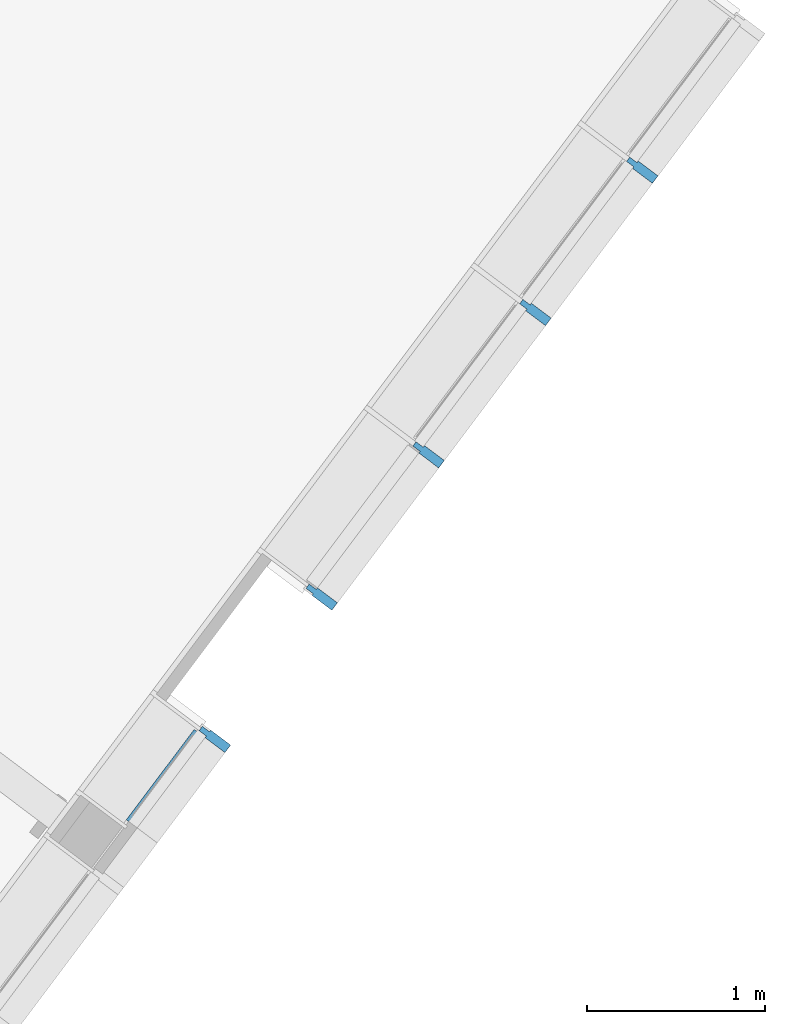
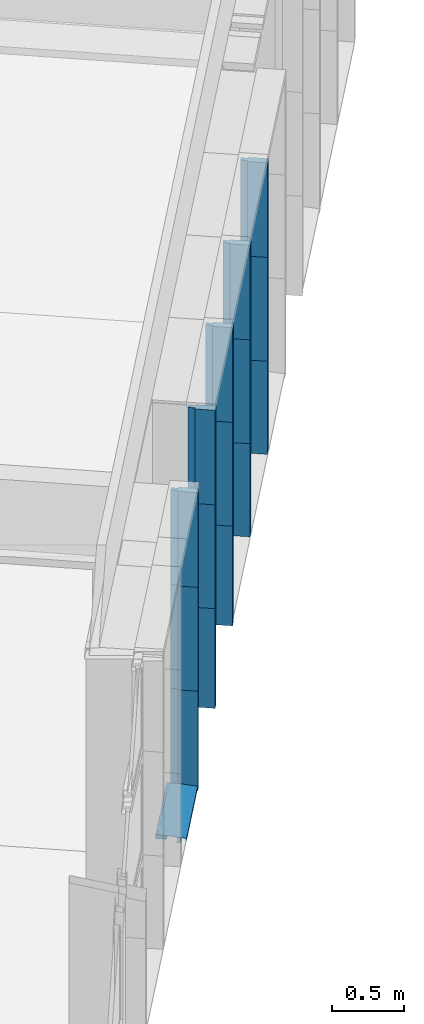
# One storey, part 78 of 243: 16 members, 1 element without a shape of its own.
"""IFC2X3 building model written with IfcOpenShell, lengths in metres."""

from ifc_helpers import new_model, entity, si_unit, converted_unit, derived_unit, direction, frame, frame_2d, origin, place, context, subcontext, project, spatial, polyline, circle_curve, parameter, trimmed, segment, composite_curve, outline, extrude, source, transform, mapped, material, type_object, type_shapes, element, aggregate, save


model = new_model("IFC2X3")

# Units and contexts
model_context = context("Model", 3, precision=1e-05, world=origin(), true_north=direction((6.123031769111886e-17, 1.0)))
body_context = subcontext(model_context, "Body", "Model", "MODEL_VIEW")
ifc_project = project(units=[si_unit("LENGTHUNIT", "METRE"), si_unit("AREAUNIT", "SQUARE_METRE"), si_unit("VOLUMEUNIT", "CUBIC_METRE"), converted_unit("PLANEANGLEUNIT", "DEGREE", entity("IfcRatioMeasure", 0.017453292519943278), si_unit("PLANEANGLEUNIT", "RADIAN"), dimensions=[0, 0, 0, 0, 0, 0, 0]), si_unit("MASSUNIT", "GRAM", prefix="KILO"), derived_unit("MASSDENSITYUNIT", [(si_unit("MASSUNIT", "GRAM", prefix="KILO"), 1), (si_unit("LENGTHUNIT", "METRE"), -3)]), derived_unit("IONCONCENTRATIONUNIT", [(si_unit("MASSUNIT", "GRAM", prefix="KILO"), 1), (si_unit("LENGTHUNIT", "METRE"), -3)]), derived_unit("MOMENTOFINERTIAUNIT", [(si_unit("LENGTHUNIT", "METRE"), 4)]), si_unit("TIMEUNIT", "SECOND"), si_unit("FREQUENCYUNIT", "HERTZ"), si_unit("THERMODYNAMICTEMPERATUREUNIT", "DEGREE_CELSIUS"), derived_unit("THERMALTRANSMITTANCEUNIT", [(si_unit("MASSUNIT", "GRAM", prefix="KILO"), 1), (si_unit("THERMODYNAMICTEMPERATUREUNIT", "KELVIN"), -1), (si_unit("TIMEUNIT", "SECOND"), -3)]), derived_unit("THERMALCONDUCTANCEUNIT", [(si_unit("MASSUNIT", "GRAM", prefix="KILO"), 1), (si_unit("THERMODYNAMICTEMPERATUREUNIT", "KELVIN"), -1), (si_unit("TIMEUNIT", "SECOND"), -3), (si_unit("LENGTHUNIT", "METRE"), 1)]), derived_unit("VOLUMETRICFLOWRATEUNIT", [(si_unit("LENGTHUNIT", "METRE"), 3), (si_unit("TIMEUNIT", "SECOND"), -1)]), derived_unit("MASSFLOWRATEUNIT", [(si_unit("MASSUNIT", "GRAM", prefix="KILO"), 1), (si_unit("TIMEUNIT", "SECOND"), -1)]), derived_unit("ROTATIONALFREQUENCYUNIT", [(si_unit("TIMEUNIT", "SECOND"), -1)]), si_unit("ELECTRICCURRENTUNIT", "AMPERE"), si_unit("ELECTRICVOLTAGEUNIT", "VOLT"), si_unit("POWERUNIT", "WATT"), si_unit("FORCEUNIT", "NEWTON", prefix="KILO"), si_unit("ILLUMINANCEUNIT", "LUX"), si_unit("LUMINOUSFLUXUNIT", "LUMEN"), si_unit("LUMINOUSINTENSITYUNIT", "CANDELA"), derived_unit("USERDEFINED", [(si_unit("MASSUNIT", "GRAM", prefix="KILO"), -1), (si_unit("LENGTHUNIT", "METRE"), -2), (si_unit("TIMEUNIT", "SECOND"), 3), (si_unit("LUMINOUSFLUXUNIT", "LUMEN"), 1)]), derived_unit("USERDEFINED", [(si_unit("MASSUNIT", "GRAM", prefix="KILO"), 1), (si_unit("TIMEUNIT", "SECOND"), -3), (si_unit("LENGTHUNIT", "METRE"), 3), (si_unit("ELECTRICCURRENTUNIT", "AMPERE"), -2)]), derived_unit("SOUNDPOWERUNIT", [(si_unit("MASSUNIT", "GRAM", prefix="KILO"), 1), (si_unit("TIMEUNIT", "SECOND"), -3), (si_unit("LENGTHUNIT", "METRE"), 2)]), derived_unit("SOUNDPRESSUREUNIT", [(si_unit("MASSUNIT", "GRAM", prefix="KILO"), 1), (si_unit("LENGTHUNIT", "METRE"), -1), (si_unit("TIMEUNIT", "SECOND"), -2)]), derived_unit("LINEARVELOCITYUNIT", [(si_unit("LENGTHUNIT", "METRE"), 1), (si_unit("TIMEUNIT", "SECOND"), -1)]), si_unit("PRESSUREUNIT", "PASCAL"), derived_unit("USERDEFINED", [(si_unit("MASSUNIT", "GRAM", prefix="KILO"), 1), (si_unit("LENGTHUNIT", "METRE"), -2), (si_unit("TIMEUNIT", "SECOND"), -2)]), derived_unit("LINEARFORCEUNIT", [(si_unit("MASSUNIT", "GRAM", prefix="KILO"), 1), (si_unit("TIMEUNIT", "SECOND"), -2)]), derived_unit("PLANARFORCEUNIT", [(si_unit("MASSUNIT", "GRAM", prefix="KILO"), 1), (si_unit("LENGTHUNIT", "METRE"), -1), (si_unit("TIMEUNIT", "SECOND"), -2)]), derived_unit("SPECIFICHEATCAPACITYUNIT", [(si_unit("THERMODYNAMICTEMPERATUREUNIT", "KELVIN"), -1), (si_unit("LENGTHUNIT", "METRE"), 2), (si_unit("TIMEUNIT", "SECOND"), -2)]), derived_unit("HEATINGVALUEUNIT", [(si_unit("LENGTHUNIT", "METRE"), 2), (si_unit("TIMEUNIT", "SECOND"), -2)]), derived_unit("VAPORPERMEABILITYUNIT", [(si_unit("LENGTHUNIT", "METRE"), -1), (si_unit("TIMEUNIT", "SECOND"), 1)]), derived_unit("DYNAMICVISCOSITYUNIT", [(si_unit("MASSUNIT", "GRAM", prefix="KILO"), 1), (si_unit("TIMEUNIT", "SECOND"), -1), (si_unit("LENGTHUNIT", "METRE"), -1)]), derived_unit("THERMALEXPANSIONCOEFFICIENTUNIT", [(si_unit("THERMODYNAMICTEMPERATUREUNIT", "KELVIN"), -1)]), derived_unit("MODULUSOFELASTICITYUNIT", [(si_unit("MASSUNIT", "GRAM", prefix="KILO"), 1), (si_unit("LENGTHUNIT", "METRE"), -1), (si_unit("TIMEUNIT", "SECOND"), -2)]), derived_unit("ISOTHERMALMOISTURECAPACITYUNIT", [(si_unit("LENGTHUNIT", "METRE"), 3), (si_unit("MASSUNIT", "GRAM", prefix="KILO"), -1)]), derived_unit("MOISTUREDIFFUSIVITYUNIT", [(si_unit("TIMEUNIT", "SECOND"), -1), (si_unit("LENGTHUNIT", "METRE"), 2)])], contexts=[model_context])

# Site, building, storey
site_placement = place(None, frame((0.0, 0.0, 235.0), z_axis=(0.0, 0.0, 1.0), x_axis=(-0.7996477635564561, 0.6004693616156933, 0.0)))
site = spatial("IfcSite", under=ifc_project, at=site_placement, Name="Default", CompositionType="ELEMENT")
building_placement = place(site_placement, origin())
building = spatial("IfcBuilding", under=site, at=building_placement, CompositionType="ELEMENT")
storey_placement = place(building_placement, origin())
storey = spatial("IfcBuildingStorey", under=building, at=storey_placement, Name="P0- Escola", CompositionType="ELEMENT", Elevation=0.0)

# Curtain wall, members
curtain_wall_type = type_object("IfcCurtainWallType", Name="Muro cortina:MC- EXT- MC2", PredefinedType="NOTDEFINED")
curtain_wall_placement = place(storey_placement, origin())
curtain_wall = element("IfcCurtainWall", 1, at=curtain_wall_placement, inside=storey, type_object=curtain_wall_type, Name="Muro cortina:MC- EXT- MC2", ObjectType="Muro cortina:MC- EXT- MC2")
ifc_material = material(Name="_Alumini- T1- Perfil")
member_type_1 = type_object("IfcMemberType", Name="Montante rectangular:MC- Alu- 140x52,5 cm- Fa patis- Centre", PredefinedType="MULLION", material=ifc_material)
shared_shape_1 = source(origin(), body_context, "Body", "SweptSolid", [
    extrude(outline(polyline([(-0.11699999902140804, -0.026250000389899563), (0.021999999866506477, -0.026250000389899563), (0.021999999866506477, -0.01500000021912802), (0.07299999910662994, -0.01500000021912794), (0.07299999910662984, 0.015000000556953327), (0.02200000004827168, 0.015000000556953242), (0.02200000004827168, 0.026250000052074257), (-0.11699999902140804, 0.026250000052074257), (-0.11699999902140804, -0.026250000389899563)])), frame((0.0, 0.022999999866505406, -0.8400000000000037), z_axis=(0.0, 0.0, 1.0), x_axis=(0.0, -1.0, 0.0)), (0.0, 0.0, 1.0), 0.8400000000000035),
])
type_shapes(member_type_1, [shared_shape_1])
member_1_placement = place(curtain_wall_placement, frame((41.045147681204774, -24.415191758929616, -0.02), z_axis=(0.0, 0.0, -1.0), x_axis=(0.0, -1.0, 0.0)))
member_1 = element("IfcMember", 2, at=member_1_placement, type_object=member_type_1, material=ifc_material, Name="Montante rectangular:MC- Alu- 140x52,5 cm- Fa patis- Centre", ObjectType="Montante rectangular:MC- Alu- 140x52,5 cm- Fa patis- Centre", context=body_context, shape_type="MappedRepresentation", body=[
    mapped(shared_shape_1, transform((0.0, 0.0, 0.0), scale=1.0)),
])
member_2_placement = place(curtain_wall_placement, frame((41.045147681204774, -26.41519175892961, -0.02), z_axis=(0.0, 0.0, -1.0), x_axis=(0.0, -1.0, 0.0)))
member_2 = element("IfcMember", 3, at=member_2_placement, type_object=member_type_1, material=ifc_material, Name="Montante rectangular:MC- Alu- 140x52,5 cm- Fa patis- Centre", ObjectType="Montante rectangular:MC- Alu- 140x52,5 cm- Fa patis- Centre", context=body_context, shape_type="MappedRepresentation", body=[
    mapped(shared_shape_1, transform((0.0, 0.0, 0.0), scale=1.0)),
])
member_3_placement = place(curtain_wall_placement, frame((41.045147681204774, -25.415191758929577, -0.02), z_axis=(0.0, 0.0, -1.0), x_axis=(0.0, -1.0, 0.0)))
member_3 = element("IfcMember", 4, at=member_3_placement, type_object=member_type_1, material=ifc_material, Name="Montante rectangular:MC- Alu- 140x52,5 cm- Fa patis- Centre", ObjectType="Montante rectangular:MC- Alu- 140x52,5 cm- Fa patis- Centre", context=body_context, shape_type="MappedRepresentation", body=[
    mapped(shared_shape_1, transform((0.0, 0.0, 0.0), scale=1.0)),
])
member_type_2 = type_object("IfcMemberType", Name="Montante rectangular:MC- Alu- 140x52,5 cm- Fa patis- Centre", PredefinedType="MULLION", material=ifc_material)
shared_shape_2 = source(origin(), body_context, "Body", "SweptSolid", [
    extrude(outline(polyline([(-0.11699999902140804, -0.026250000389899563), (0.021999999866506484, -0.026250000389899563), (0.021999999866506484, -0.01500000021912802), (0.07299999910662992, -0.01500000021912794), (0.07299999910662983, 0.015000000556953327), (0.022000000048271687, 0.015000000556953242), (0.022000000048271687, 0.026250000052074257), (-0.11699999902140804, 0.026250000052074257), (-0.11699999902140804, -0.026250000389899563)])), frame((0.0, 0.022999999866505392, -0.7850000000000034), z_axis=(0.0, 0.0, 1.0), x_axis=(0.0, -1.0, 0.0)), (0.0, 0.0, 1.0), 0.7850000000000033),
])
type_shapes(member_type_2, [shared_shape_2])
member_4_placement = place(curtain_wall_placement, frame((41.045147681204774, -27.41519175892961, 0.035000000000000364), z_axis=(0.0, 0.0, -1.0), x_axis=(0.0, -1.0, 0.0)))
member_4 = element("IfcMember", 5, at=member_4_placement, type_object=member_type_2, material=ifc_material, Name="Montante rectangular:MC- Alu- 140x52,5 cm- Fa patis- Centre", ObjectType="Montante rectangular:MC- Alu- 140x52,5 cm- Fa patis- Centre", context=body_context, shape_type="MappedRepresentation", body=[
    mapped(shared_shape_2, transform((0.0, 0.0, 0.0), scale=1.0)),
])
member_5_placement = place(curtain_wall_placement, frame((41.04514768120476, -28.415191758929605, 0.035000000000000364), z_axis=(0.0, 0.0, -1.0), x_axis=(0.0, -1.0, 0.0)))
member_5 = element("IfcMember", 6, at=member_5_placement, type_object=member_type_2, material=ifc_material, Name="Montante rectangular:MC- Alu- 140x52,5 cm- Fa patis- Centre", ObjectType="Montante rectangular:MC- Alu- 140x52,5 cm- Fa patis- Centre", context=body_context, shape_type="MappedRepresentation", body=[
    mapped(shared_shape_2, transform((0.0, 0.0, 0.0), scale=1.0)),
])
member_type_3 = type_object("IfcMemberType", Name="Montante rectangular:MC- Alu- 140x52,5 cm- Fa patis- Centre", PredefinedType="MULLION", material=ifc_material)
shared_shape_3 = source(origin(), body_context, "Body", "SweptSolid", [
    extrude(outline(polyline([(-0.11699999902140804, -0.026250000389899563), (0.021999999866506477, -0.026250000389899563), (0.021999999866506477, -0.01500000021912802), (0.07299999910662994, -0.01500000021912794), (0.07299999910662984, 0.015000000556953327), (0.02200000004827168, 0.015000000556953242), (0.02200000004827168, 0.026250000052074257), (-0.11699999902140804, 0.026250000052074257), (-0.11699999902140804, -0.026250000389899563)])), frame((0.0, 0.022999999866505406, -0.8750000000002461), z_axis=(0.0, 0.0, 1.0), x_axis=(0.0, -1.0, 0.0)), (0.0, 0.0, 1.0), 0.8750000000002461),
])
type_shapes(member_type_3, [shared_shape_3])
member_6_placement = place(curtain_wall_placement, frame((41.045147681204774, -24.415191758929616, 0.8200000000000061), z_axis=(0.0, 0.0, -1.0), x_axis=(0.0, -1.0, 0.0)))
member_6 = element("IfcMember", 7, at=member_6_placement, type_object=member_type_3, material=ifc_material, Name="Montante rectangular:MC- Alu- 140x52,5 cm- Fa patis- Centre", ObjectType="Montante rectangular:MC- Alu- 140x52,5 cm- Fa patis- Centre", context=body_context, shape_type="MappedRepresentation", body=[
    mapped(shared_shape_3, transform((0.0, 0.0, 0.0), scale=1.0)),
])
member_7_placement = place(curtain_wall_placement, frame((41.045147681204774, -25.415191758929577, 0.8200000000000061), z_axis=(0.0, 0.0, -1.0), x_axis=(0.0, -1.0, 0.0)))
member_7 = element("IfcMember", 8, at=member_7_placement, type_object=member_type_3, material=ifc_material, Name="Montante rectangular:MC- Alu- 140x52,5 cm- Fa patis- Centre", ObjectType="Montante rectangular:MC- Alu- 140x52,5 cm- Fa patis- Centre", context=body_context, shape_type="MappedRepresentation", body=[
    mapped(shared_shape_3, transform((0.0, 0.0, 0.0), scale=1.0)),
])
member_8_placement = place(curtain_wall_placement, frame((41.045147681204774, -26.41519175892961, 0.8200000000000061), z_axis=(0.0, 0.0, -1.0), x_axis=(0.0, -1.0, 0.0)))
member_8 = element("IfcMember", 9, at=member_8_placement, type_object=member_type_3, material=ifc_material, Name="Montante rectangular:MC- Alu- 140x52,5 cm- Fa patis- Centre", ObjectType="Montante rectangular:MC- Alu- 140x52,5 cm- Fa patis- Centre", context=body_context, shape_type="MappedRepresentation", body=[
    mapped(shared_shape_3, transform((0.0, 0.0, 0.0), scale=1.0)),
])
member_9_placement = place(curtain_wall_placement, frame((41.045147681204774, -27.41519175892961, 0.8200000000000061), z_axis=(0.0, 0.0, -1.0), x_axis=(0.0, -1.0, 0.0)))
member_9 = element("IfcMember", 10, at=member_9_placement, type_object=member_type_3, material=ifc_material, Name="Montante rectangular:MC- Alu- 140x52,5 cm- Fa patis- Centre", ObjectType="Montante rectangular:MC- Alu- 140x52,5 cm- Fa patis- Centre", context=body_context, shape_type="MappedRepresentation", body=[
    mapped(shared_shape_3, transform((0.0, 0.0, 0.0), scale=1.0)),
])
member_10_placement = place(curtain_wall_placement, frame((41.04514768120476, -28.415191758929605, 0.8200000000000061), z_axis=(0.0, 0.0, -1.0), x_axis=(0.0, -1.0, 0.0)))
member_10 = element("IfcMember", 11, at=member_10_placement, type_object=member_type_3, material=ifc_material, Name="Montante rectangular:MC- Alu- 140x52,5 cm- Fa patis- Centre", ObjectType="Montante rectangular:MC- Alu- 140x52,5 cm- Fa patis- Centre", context=body_context, shape_type="MappedRepresentation", body=[
    mapped(shared_shape_3, transform((0.0, 0.0, 0.0), scale=1.0)),
])
member_type_4 = type_object("IfcMemberType", Name="Montante rectangular:MC- Alu- 140x52,5 cm- Fa patis- inferior", PredefinedType="MULLION", material=ifc_material)
shared_shape_4 = source(origin(), body_context, "Body", "SweptSolid", [
    extrude(outline(composite_curve([segment(polyline([(0.1278672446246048, -0.02586710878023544), (0.14416724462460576, -0.025867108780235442)]), True, "CONTINUOUS"), segment(polyline([(0.14416724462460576, -0.025867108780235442), (0.1441672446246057, 0.00913289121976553)]), True, "CONTINUOUS"), segment(polyline([(0.1441672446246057, 0.00913289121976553), (0.06786724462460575, 0.009132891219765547)]), True, "CONTINUOUS"), segment(polyline([(0.06786724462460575, 0.009132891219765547), (0.06786724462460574, -0.021159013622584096)]), True, "CONTINUOUS"), segment(polyline([(0.06786724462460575, -0.02115901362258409), (-0.030132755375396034, -0.012332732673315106)]), True, "CONTINUOUS"), segment(polyline([(-0.03013275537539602, -0.012332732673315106), (-0.030132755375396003, 0.027132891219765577)]), True, "CONTINUOUS"), segment(polyline([(-0.030132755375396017, 0.027132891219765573), (-0.0021327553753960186, 0.027132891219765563)]), True, "CONTINUOUS"), segment(polyline([(-0.0021327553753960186, 0.027132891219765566), (-0.0021327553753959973, 0.029132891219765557)]), True, "CONTINUOUS"), segment(polyline([(-0.0021327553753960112, 0.029132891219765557), (-0.032132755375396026, 0.029132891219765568)]), True, "CONTINUOUS"), segment(polyline([(-0.032132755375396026, 0.029132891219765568), (-0.03213275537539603, -0.01215260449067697)]), True, "CONTINUOUS"), segment(polyline([(-0.03213275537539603, -0.01215260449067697), (-0.0701327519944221, -0.008730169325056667)]), True, "CONTINUOUS"), segment(polyline([(-0.0701327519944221, -0.00873016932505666), (-0.0701327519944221, 0.005766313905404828)]), True, "CONTINUOUS"), segment(trimmed(circle_curve(frame_2d((-0.0696327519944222, 0.0057663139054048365), x_axis=(-1.0, 0.0)), 0.0004999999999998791), [parameter(269.999999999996)], [parameter(0.0)], True, "PARAMETER"), False, "CONTINUOUS"), segment(polyline([(-0.0696327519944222, 0.006266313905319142), (-0.06213275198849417, 0.006266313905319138)]), True, "CONTINUOUS"), segment(polyline([(-0.06213275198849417, 0.006266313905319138), (-0.06213275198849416, 0.008266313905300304)]), True, "CONTINUOUS"), segment(polyline([(-0.06213275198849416, 0.008266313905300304), (-0.07013275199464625, 0.008266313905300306)]), True, "CONTINUOUS"), segment(trimmed(circle_curve(frame_2d((-0.07013275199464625, 0.006266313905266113), x_axis=(0.0, 1.0)), 0.0020000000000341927), [parameter(0.0)], [parameter(90.00000002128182)], True, "PARAMETER"), True, "CONTINUOUS"), segment(polyline([(-0.07213275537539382, 0.006266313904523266), (-0.07213275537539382, -0.008730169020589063)]), True, "CONTINUOUS"), segment(trimmed(circle_curve(frame_2d((-0.07013275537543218, -0.008730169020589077), x_axis=(-1.0, 0.0)), 0.001999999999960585), [parameter(0.0)], [parameter(84.85359280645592)], True, "PARAMETER"), True, "CONTINUOUS"), segment(polyline([(-0.07031215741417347, -0.010722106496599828), (0.06786724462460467, -0.023167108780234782)]), True, "CONTINUOUS"), segment(polyline([(0.06786724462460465, -0.023167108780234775), (0.12786724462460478, -0.023167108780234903)]), True, "CONTINUOUS"), segment(polyline([(0.12786724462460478, -0.023167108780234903), (0.1278672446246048, -0.02586710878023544)]), True, "CONTINUOUS")], self_intersect=False)), frame((-0.02913289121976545, 0.06786724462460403, -0.6346236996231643), z_axis=(0.0, 0.0, 1.0), x_axis=(0.0, -1.0, 0.0)), (0.0, 0.0, 1.0), 0.6346236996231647),
])
type_shapes(member_type_4, [shared_shape_4])
member_11_placement = place(curtain_wall_placement, frame((41.045147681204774, -23.75431805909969, -0.02), z_axis=(0.0, 1.0, 0.0), x_axis=(0.0, 0.0, -1.0)))
member_11 = element("IfcMember", 12, at=member_11_placement, type_object=member_type_4, material=ifc_material, Name="Montante rectangular:MC- Alu- 140x52,5 cm- Fa patis- inferior", ObjectType="Montante rectangular:MC- Alu- 140x52,5 cm- Fa patis- inferior", context=body_context, shape_type="MappedRepresentation", body=[
    mapped(shared_shape_4, transform((0.0, 0.0, 0.0), scale=1.0)),
])
member_type_5 = type_object("IfcMemberType", Name="Montante rectangular:MC- Alu- 140x52,5 cm- Fa patis- Centre", PredefinedType="MULLION", material=ifc_material)
shared_shape_5 = source(origin(), body_context, "Body", "SweptSolid", [
    extrude(outline(polyline([(-0.11699999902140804, -0.026250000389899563), (0.021999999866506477, -0.026250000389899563), (0.021999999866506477, -0.01500000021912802), (0.07299999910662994, -0.01500000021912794), (0.07299999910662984, 0.015000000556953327), (0.02200000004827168, 0.015000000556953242), (0.02200000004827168, 0.026250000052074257), (-0.11699999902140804, 0.026250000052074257), (-0.11699999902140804, -0.026250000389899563)])), frame((0.0, 0.022999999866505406, -0.79749999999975), z_axis=(0.0, 0.0, 1.0), x_axis=(0.0, -1.0, 0.0)), (0.0, 0.0, 1.0), 0.79749999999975),
])
type_shapes(member_type_5, [shared_shape_5])
member_12_placement = place(curtain_wall_placement, frame((41.045147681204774, -24.415191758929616, 1.6950000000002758), z_axis=(0.0, 0.0, -1.0), x_axis=(0.0, -1.0, 0.0)))
member_12 = element("IfcMember", 13, at=member_12_placement, type_object=member_type_5, material=ifc_material, Name="Montante rectangular:MC- Alu- 140x52,5 cm- Fa patis- Centre", ObjectType="Montante rectangular:MC- Alu- 140x52,5 cm- Fa patis- Centre", context=body_context, shape_type="MappedRepresentation", body=[
    mapped(shared_shape_5, transform((0.0, 0.0, 0.0), scale=1.0)),
])
member_13_placement = place(curtain_wall_placement, frame((41.045147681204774, -25.415191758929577, 1.6950000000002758), z_axis=(0.0, 0.0, -1.0), x_axis=(0.0, -1.0, 0.0)))
member_13 = element("IfcMember", 14, at=member_13_placement, type_object=member_type_5, material=ifc_material, Name="Montante rectangular:MC- Alu- 140x52,5 cm- Fa patis- Centre", ObjectType="Montante rectangular:MC- Alu- 140x52,5 cm- Fa patis- Centre", context=body_context, shape_type="MappedRepresentation", body=[
    mapped(shared_shape_5, transform((0.0, 0.0, 0.0), scale=1.0)),
])
member_14_placement = place(curtain_wall_placement, frame((41.045147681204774, -26.41519175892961, 1.6950000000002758), z_axis=(0.0, 0.0, -1.0), x_axis=(0.0, -1.0, 0.0)))
member_14 = element("IfcMember", 15, at=member_14_placement, type_object=member_type_5, material=ifc_material, Name="Montante rectangular:MC- Alu- 140x52,5 cm- Fa patis- Centre", ObjectType="Montante rectangular:MC- Alu- 140x52,5 cm- Fa patis- Centre", context=body_context, shape_type="MappedRepresentation", body=[
    mapped(shared_shape_5, transform((0.0, 0.0, 0.0), scale=1.0)),
])
member_15_placement = place(curtain_wall_placement, frame((41.045147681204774, -27.41519175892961, 1.6950000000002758), z_axis=(0.0, 0.0, -1.0), x_axis=(0.0, -1.0, 0.0)))
member_15 = element("IfcMember", 16, at=member_15_placement, type_object=member_type_5, material=ifc_material, Name="Montante rectangular:MC- Alu- 140x52,5 cm- Fa patis- Centre", ObjectType="Montante rectangular:MC- Alu- 140x52,5 cm- Fa patis- Centre", context=body_context, shape_type="MappedRepresentation", body=[
    mapped(shared_shape_5, transform((0.0, 0.0, 0.0), scale=1.0)),
])
member_16_placement = place(curtain_wall_placement, frame((41.04514768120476, -28.415191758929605, 1.6950000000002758), z_axis=(0.0, 0.0, -1.0), x_axis=(0.0, -1.0, 0.0)))
member_16 = element("IfcMember", 17, at=member_16_placement, type_object=member_type_5, material=ifc_material, Name="Montante rectangular:MC- Alu- 140x52,5 cm- Fa patis- Centre", ObjectType="Montante rectangular:MC- Alu- 140x52,5 cm- Fa patis- Centre", context=body_context, shape_type="MappedRepresentation", body=[
    mapped(shared_shape_5, transform((0.0, 0.0, 0.0), scale=1.0)),
])
aggregate(curtain_wall, [member_1, member_2, member_4, member_5, member_3, member_11, member_6, member_7, member_8, member_9, member_10, member_12, member_13, member_14, member_15, member_16])

save(model, "model.ifc")
